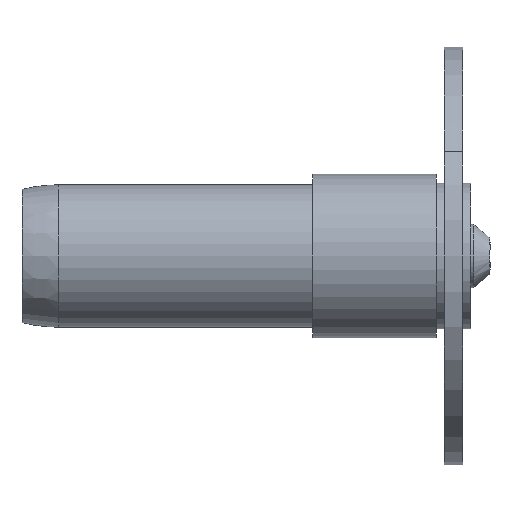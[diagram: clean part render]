
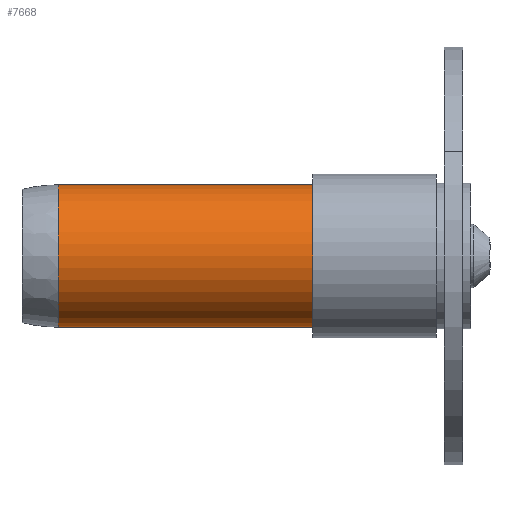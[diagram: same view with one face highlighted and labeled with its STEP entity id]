
A CAD part, front view. The second image highlights one B-rep face of the part: STEP entity #7668.
In plain terms, the highlighted cylindrical face has radius 12.446 mm (diameter 24.892 mm), a partial arc.
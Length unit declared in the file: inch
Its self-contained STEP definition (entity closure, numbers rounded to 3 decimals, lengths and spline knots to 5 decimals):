
#30 = EDGE_CURVE ( 'NONE', #7992, #6417, #1141, .T. ) ;
#59 = ORIENTED_EDGE ( 'NONE', *, *, #1540, .T. ) ;
#427 = CARTESIAN_POINT ( 'NONE',  ( -0.25, 0., 0.49 ) ) ;
#520 = CARTESIAN_POINT ( 'NONE',  ( -2., 0., -0.49 ) ) ;
#663 = AXIS2_PLACEMENT_3D ( 'NONE', #6093, #1568, #6839 ) ;
#926 = LINE ( 'NONE', #1809, #8706 ) ;
#1058 = CARTESIAN_POINT ( 'NONE',  ( -2.25, 0., -0.49 ) ) ;
#1105 = AXIS2_PLACEMENT_3D ( 'NONE', #9003, #2986, #9774 ) ;
#1141 = CIRCLE ( 'NONE', #1704, 0.49 ) ;
#1390 = FACE_OUTER_BOUND ( 'NONE', #3006, .T. ) ;
#1540 = EDGE_CURVE ( 'NONE', #6417, #1613, #926, .T. ) ;
#1568 = DIRECTION ( 'NONE',  ( 1., 0., 0. ) ) ;
#1613 = VERTEX_POINT ( 'NONE', #4174 ) ;
#1704 = AXIS2_PLACEMENT_3D ( 'NONE', #2072, #7350, #2822 ) ;
#1809 = CARTESIAN_POINT ( 'NONE',  ( -2.25, 0., 0.49 ) ) ;
#1841 = CARTESIAN_POINT ( 'NONE',  ( -0.25, 0., -0.49 ) ) ;
#1863 = VECTOR ( 'NONE', #6346, 39.37008 ) ;
#2072 = CARTESIAN_POINT ( 'NONE',  ( -0.25, 0., 0. ) ) ;
#2822 = DIRECTION ( 'NONE',  ( 0., 0., 1. ) ) ;
#2986 = DIRECTION ( 'NONE',  ( -1., 0., 0. ) ) ;
#3006 = EDGE_LOOP ( 'NONE', ( #7146, #5511, #59, #8560 ) ) ;
#3195 = EDGE_CURVE ( 'NONE', #7992, #7378, #7407, .T. ) ;
#4174 = CARTESIAN_POINT ( 'NONE',  ( -2., 0., 0.49 ) ) ;
#5418 = CIRCLE ( 'NONE', #663, 0.49 ) ;
#5511 = ORIENTED_EDGE ( 'NONE', *, *, #30, .T. ) ;
#6093 = CARTESIAN_POINT ( 'NONE',  ( -2., 0., 0. ) ) ;
#6346 = DIRECTION ( 'NONE',  ( -1., 0., 0. ) ) ;
#6356 = DIRECTION ( 'NONE',  ( -1., 0., 0. ) ) ;
#6417 = VERTEX_POINT ( 'NONE', #427 ) ;
#6664 = EDGE_CURVE ( 'NONE', #1613, #7378, #5418, .T. ) ;
#6839 = DIRECTION ( 'NONE',  ( 0., 0., 1. ) ) ;
#7146 = ORIENTED_EDGE ( 'NONE', *, *, #3195, .F. ) ;
#7350 = DIRECTION ( 'NONE',  ( -1., 0., 0. ) ) ;
#7378 = VERTEX_POINT ( 'NONE', #520 ) ;
#7407 = LINE ( 'NONE', #1058, #1863 ) ;
#7668 = ADVANCED_FACE ( 'NONE', ( #1390 ), #8920, .T. ) ;
#7992 = VERTEX_POINT ( 'NONE', #1841 ) ;
#8560 = ORIENTED_EDGE ( 'NONE', *, *, #6664, .T. ) ;
#8706 = VECTOR ( 'NONE', #6356, 39.37008 ) ;
#8920 = CYLINDRICAL_SURFACE ( 'NONE', #1105, 0.49 ) ;
#9003 = CARTESIAN_POINT ( 'NONE',  ( -2.25, 0., 0. ) ) ;
#9774 = DIRECTION ( 'NONE',  ( 0., 0., 1. ) ) ;
